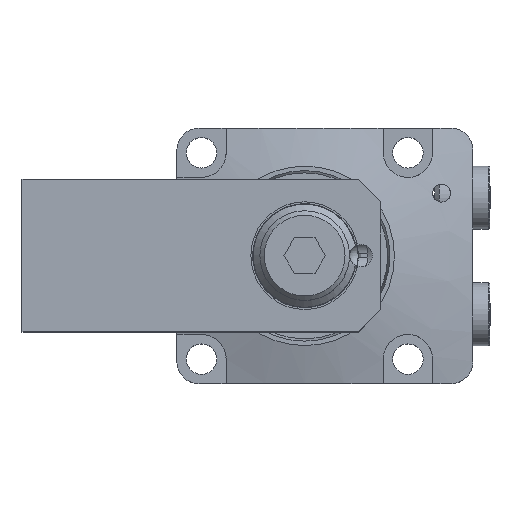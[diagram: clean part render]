
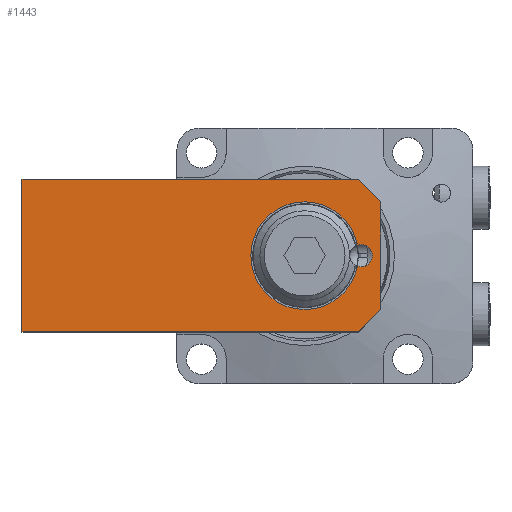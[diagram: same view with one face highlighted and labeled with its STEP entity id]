
A CAD part, top view. The second image highlights one B-rep face of the part: STEP entity #1443.
In plain terms, the highlighted planar face has unit normal (0, 0, 1).
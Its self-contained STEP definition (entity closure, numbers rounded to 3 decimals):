
#1126=LINE('',#4649,#1256);
#1127=LINE('',#4652,#1257);
#1128=LINE('',#4654,#1258);
#1129=LINE('',#4656,#1259);
#1130=LINE('',#4658,#1260);
#1131=LINE('',#4660,#1261);
#1256=VECTOR('',#3796,1.);
#1257=VECTOR('',#3797,1.);
#1258=VECTOR('',#3798,1.);
#1259=VECTOR('',#3799,1.);
#1260=VECTOR('',#3800,1.);
#1261=VECTOR('',#3801,1.);
#1443=ADVANCED_FACE('',(#1681,#1682),#1539,.T.);
#1539=PLANE('',#3322);
#1681=FACE_BOUND('',#1861,.T.);
#1682=FACE_BOUND('',#1862,.T.);
#1861=EDGE_LOOP('',(#2250,#2251));
#1862=EDGE_LOOP('',(#2252,#2253,#2254,#2255,#2256,#2257));
#2250=ORIENTED_EDGE('',*,*,#2818,.T.);
#2251=ORIENTED_EDGE('',*,*,#2819,.F.);
#2252=ORIENTED_EDGE('',*,*,#2820,.F.);
#2253=ORIENTED_EDGE('',*,*,#2821,.T.);
#2254=ORIENTED_EDGE('',*,*,#2822,.F.);
#2255=ORIENTED_EDGE('',*,*,#2823,.T.);
#2256=ORIENTED_EDGE('',*,*,#2824,.F.);
#2257=ORIENTED_EDGE('',*,*,#2825,.F.);
#2582=VERTEX_POINT('',#4646);
#2583=VERTEX_POINT('',#4647);
#2584=VERTEX_POINT('',#4650);
#2585=VERTEX_POINT('',#4651);
#2586=VERTEX_POINT('',#4653);
#2587=VERTEX_POINT('',#4655);
#2588=VERTEX_POINT('',#4657);
#2589=VERTEX_POINT('',#4659);
#2818=EDGE_CURVE('',#2582,#2583,#2984,.T.);
#2819=EDGE_CURVE('',#2582,#2583,#2985,.T.);
#2820=EDGE_CURVE('',#2584,#2585,#1126,.T.);
#2821=EDGE_CURVE('',#2584,#2586,#1127,.T.);
#2822=EDGE_CURVE('',#2587,#2586,#1128,.T.);
#2823=EDGE_CURVE('',#2587,#2588,#1129,.T.);
#2824=EDGE_CURVE('',#2589,#2588,#1130,.T.);
#2825=EDGE_CURVE('',#2585,#2589,#1131,.T.);
#2984=CIRCLE('',#3320,2.5);
#2985=CIRCLE('',#3321,12.);
#3320=AXIS2_PLACEMENT_3D('',#4645,#3792,#3793);
#3321=AXIS2_PLACEMENT_3D('',#4648,#3794,#3795);
#3322=AXIS2_PLACEMENT_3D('',#4661,#3802,#3803);
#3792=DIRECTION('',(0.,0.,-1.));
#3793=DIRECTION('',(-1.,0.,0.));
#3794=DIRECTION('',(0.,0.,1.));
#3795=DIRECTION('',(1.,0.,0.));
#3796=DIRECTION('',(-1.,0.,0.));
#3797=DIRECTION('',(0.707,0.707,0.));
#3798=DIRECTION('',(0.,-1.,0.));
#3799=DIRECTION('',(-0.707,0.707,0.));
#3800=DIRECTION('',(1.,0.,0.));
#3801=DIRECTION('',(0.,1.,0.));
#3802=DIRECTION('',(0.,0.,1.));
#3803=DIRECTION('',(1.,0.,0.));
#4645=CARTESIAN_POINT('',(12.6,50.,76.));
#4646=CARTESIAN_POINT('',(11.766,52.357,76.));
#4647=CARTESIAN_POINT('',(11.766,47.643,76.));
#4648=CARTESIAN_POINT('',(0.,50.,76.));
#4649=CARTESIAN_POINT('',(-23.,33.,76.));
#4650=CARTESIAN_POINT('',(12.,33.,76.));
#4651=CARTESIAN_POINT('',(-63.,33.,76.));
#4652=CARTESIAN_POINT('',(3.,24.,76.));
#4653=CARTESIAN_POINT('',(17.,38.,76.));
#4654=CARTESIAN_POINT('',(17.,50.,76.));
#4655=CARTESIAN_POINT('',(17.,62.,76.));
#4656=CARTESIAN_POINT('',(3.,76.,76.));
#4657=CARTESIAN_POINT('',(12.,67.,76.));
#4658=CARTESIAN_POINT('',(-23.,67.,76.));
#4659=CARTESIAN_POINT('',(-63.,67.,76.));
#4660=CARTESIAN_POINT('',(-63.,50.,76.));
#4661=CARTESIAN_POINT('',(-23.,50.,76.));
